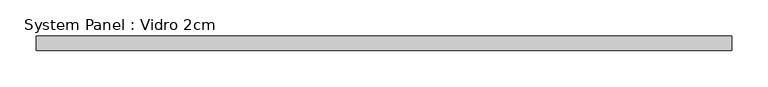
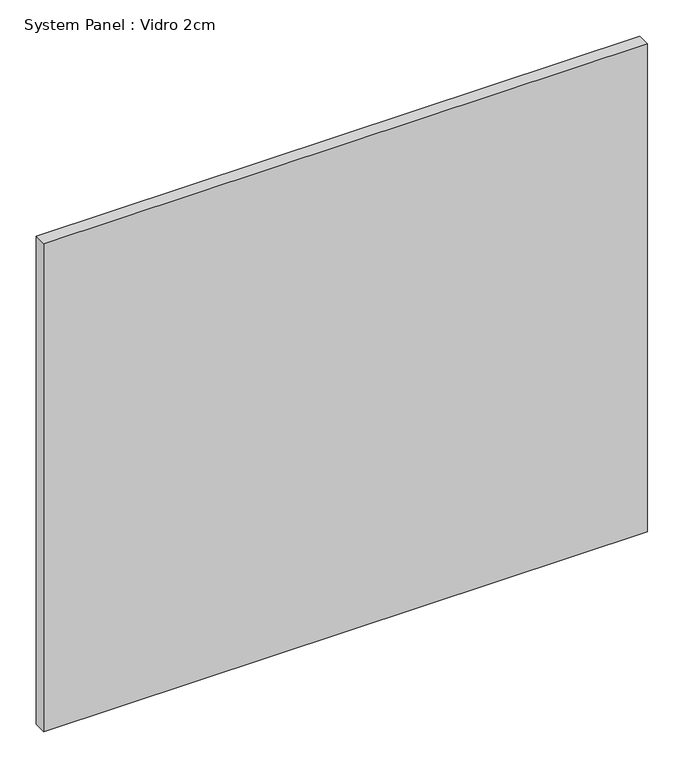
"""IFC4 building model written with IfcOpenShell, lengths in millimetres: plate geometry, System Panel : Vidro 2cm."""

from ifc_helpers import new_model, si_unit, origin, origin_with_axes, place, context, project, spatial, polyline, outline, extrude, source, transform, mapped, element, save


def system_panel_vidro_2cm_2f9a8f67(model_context):
    return source(origin(), model_context, "Body", "SweptSolid", [
        extrude(outline(polyline([(480.0000002, -20.0), (-480.0000002, -20.0), (-480.0000002, 0.0), (480.0000002, 0.0), (480.0000002, -20.0)])), origin_with_axes(), (0.0, 0.0, 1.0), 820.0),
    ])


if __name__ == "__main__":
    model = new_model("IFC4")
    model_context = context("Model", 3, world=origin())
    ifc_project = project(units=[si_unit("LENGTHUNIT", "METRE", prefix="MILLI")], contexts=[model_context])
    site = spatial("IfcSite", under=ifc_project)
    building = spatial("IfcBuilding", under=site)
    placement = place(None, origin())
    system_panel_vidro_2cm_shape = system_panel_vidro_2cm_2f9a8f67(model_context)
    element("IfcPlate", 1, ObjectType="System Panel : Vidro 2cm", at=placement, inside=building, context=model_context, shape_type="MappedRepresentation", body=[
        mapped(system_panel_vidro_2cm_shape, transform((0.0, 0.0, 0.0), x_axis=(1.0, 0.0, 0.0), y_axis=(0.0, 1.0, 0.0), z_axis=(0.0, 0.0, 1.0))),
    ])
    save(model, "model.ifc")
